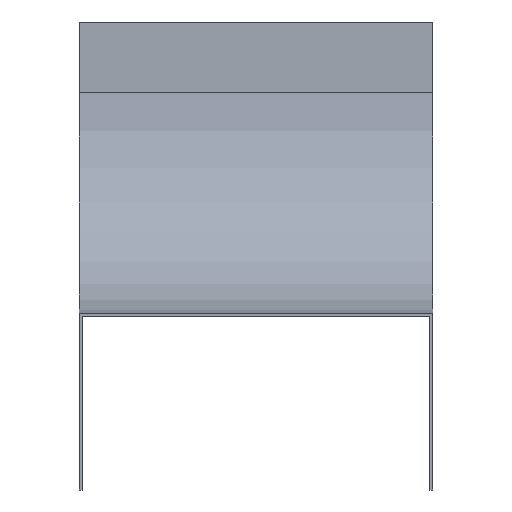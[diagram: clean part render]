
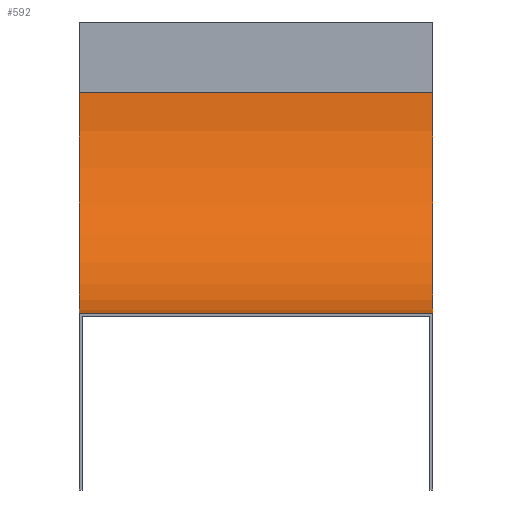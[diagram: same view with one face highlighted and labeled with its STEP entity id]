
A CAD part, front view. The second image highlights one B-rep face of the part: STEP entity #592.
In plain terms, the highlighted cylindrical face has radius 125 mm (diameter 250 mm), a partial arc.
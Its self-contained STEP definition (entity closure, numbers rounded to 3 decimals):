
#6 = VERTEX_POINT ( 'NONE', #1578 ) ;
#215 = ORIENTED_EDGE ( 'NONE', *, *, #796, .F. ) ;
#265 = AXIS2_PLACEMENT_3D ( 'NONE', #412, #801, #930 ) ;
#302 = DIRECTION ( 'NONE',  ( -1., 0., 0. ) ) ;
#316 = CYLINDRICAL_SURFACE ( 'NONE', #1259, 125. ) ;
#349 = DIRECTION ( 'NONE',  ( -1., 0., 0. ) ) ;
#398 = CARTESIAN_POINT ( 'NONE',  ( 100., -125., -165. ) ) ;
#399 = CARTESIAN_POINT ( 'NONE',  ( -100., -125., -165. ) ) ;
#412 = CARTESIAN_POINT ( 'NONE',  ( -100., -125., -40. ) ) ;
#417 = EDGE_CURVE ( 'NONE', #432, #1011, #779, .T. ) ;
#422 = CARTESIAN_POINT ( 'NONE',  ( 100., -125., -165. ) ) ;
#432 = VERTEX_POINT ( 'NONE', #944 ) ;
#448 = VECTOR ( 'NONE', #890, 1000. ) ;
#472 = VERTEX_POINT ( 'NONE', #398 ) ;
#484 = LINE ( 'NONE', #897, #448 ) ;
#592 = ADVANCED_FACE ( 'NONE', ( #1475 ), #316, .F. ) ;
#630 = EDGE_CURVE ( 'NONE', #6, #432, #484, .T. ) ;
#738 = DIRECTION ( 'NONE',  ( 0., 0., 1. ) ) ;
#779 = CIRCLE ( 'NONE', #265, 125. ) ;
#796 = EDGE_CURVE ( 'NONE', #6, #472, #1397, .T. ) ;
#801 = DIRECTION ( 'NONE',  ( -1., 0., 0. ) ) ;
#890 = DIRECTION ( 'NONE',  ( -1., 0., 0. ) ) ;
#897 = CARTESIAN_POINT ( 'NONE',  ( 100., 0., -40. ) ) ;
#911 = DIRECTION ( 'NONE',  ( -1., 0., 0. ) ) ;
#930 = DIRECTION ( 'NONE',  ( 0., 0., 1. ) ) ;
#944 = CARTESIAN_POINT ( 'NONE',  ( -100., 0., -40. ) ) ;
#975 = ORIENTED_EDGE ( 'NONE', *, *, #630, .T. ) ;
#1009 = VECTOR ( 'NONE', #302, 1000. ) ;
#1011 = VERTEX_POINT ( 'NONE', #399 ) ;
#1064 = CARTESIAN_POINT ( 'NONE',  ( 100., -125., -40. ) ) ;
#1134 = EDGE_CURVE ( 'NONE', #472, #1011, #1304, .T. ) ;
#1259 = AXIS2_PLACEMENT_3D ( 'NONE', #1513, #349, #738 ) ;
#1300 = ORIENTED_EDGE ( 'NONE', *, *, #1134, .F. ) ;
#1304 = LINE ( 'NONE', #422, #1009 ) ;
#1376 = EDGE_LOOP ( 'NONE', ( #1503, #1300, #215, #975 ) ) ;
#1397 = CIRCLE ( 'NONE', #1614, 125. ) ;
#1430 = DIRECTION ( 'NONE',  ( 0., 0., 1. ) ) ;
#1475 = FACE_OUTER_BOUND ( 'NONE', #1376, .T. ) ;
#1503 = ORIENTED_EDGE ( 'NONE', *, *, #417, .T. ) ;
#1513 = CARTESIAN_POINT ( 'NONE',  ( 100., -125., -40. ) ) ;
#1578 = CARTESIAN_POINT ( 'NONE',  ( 100., 0., -40. ) ) ;
#1614 = AXIS2_PLACEMENT_3D ( 'NONE', #1064, #911, #1430 ) ;
